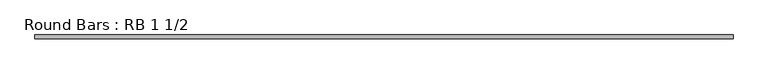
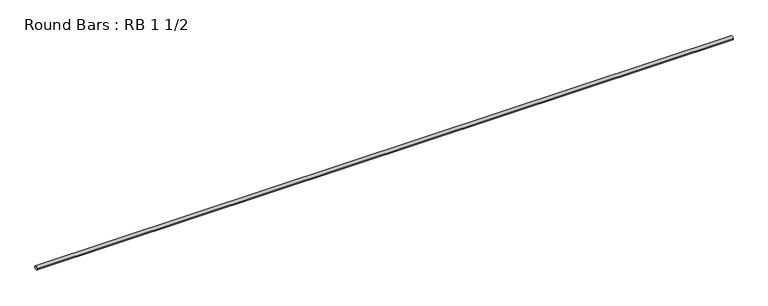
"""IFC4 building model written with IfcOpenShell, lengths in millimetres: member geometry, Round Bars : RB 1 1/2."""

from ifc_helpers import new_model, si_unit, point, frame, origin, origin_2d, place, context, project, spatial, circle_curve, trimmed, segment, composite_curve, outline, extrude, source, transform, mapped, element, save


def round_bars_rb_1_1_2_91e0801e(model_context):
    return source(origin(), model_context, "Body", "SweptSolid", [
        extrude(outline(composite_curve([segment(trimmed(circle_curve(origin_2d(), 19.05), [point((19.05, 0.0))], [point((-19.05, 0.0))], False, "CARTESIAN"), True, "CONTINUOUS"), segment(trimmed(circle_curve(origin_2d(), 19.05), [point((-19.05, 0.0))], [point((19.05, 0.0))], False, "CARTESIAN"), True, "CONTINUOUS")], self_intersect=False)), frame((-3605.5512755, 0.0, 0.0), z_axis=(1.0, 0.0, 0.0), x_axis=(0.0, 1.0, 0.0)), (0.0, 0.0, 1.0), 6896.345383),
    ])


if __name__ == "__main__":
    model = new_model("IFC4")
    model_context = context("Model", 3, world=origin())
    ifc_project = project(units=[si_unit("LENGTHUNIT", "METRE", prefix="MILLI")], contexts=[model_context])
    site = spatial("IfcSite", under=ifc_project)
    building = spatial("IfcBuilding", under=site)
    placement = place(None, origin())
    round_bars_rb_1_1_2_shape = round_bars_rb_1_1_2_91e0801e(model_context)
    element("IfcMember", 1, ObjectType="Round Bars : RB 1 1/2", at=placement, inside=building, context=model_context, shape_type="MappedRepresentation", body=[
        mapped(round_bars_rb_1_1_2_shape, transform((0.0, 0.0, 0.0), x_axis=(1.0, 0.0, 0.0), y_axis=(0.0, 1.0, 0.0), z_axis=(0.0, 0.0, 1.0))),
    ])
    save(model, "model.ifc")
